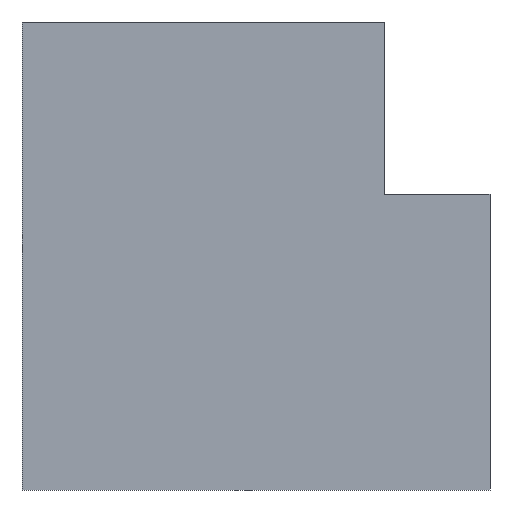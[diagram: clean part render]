
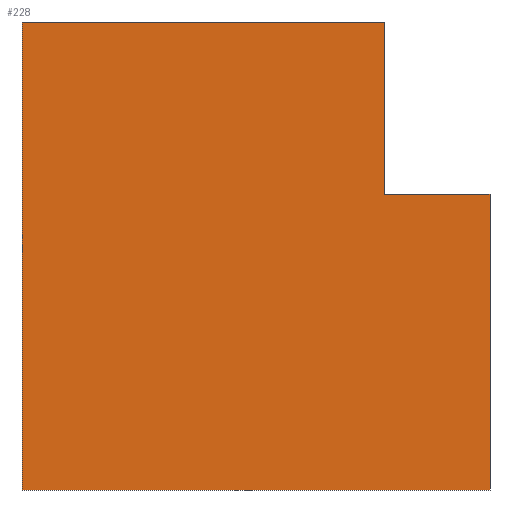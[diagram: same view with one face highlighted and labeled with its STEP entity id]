
A CAD part, front view. The second image highlights one B-rep face of the part: STEP entity #228.
In plain terms, the highlighted planar face has unit normal (0, -1, 0).
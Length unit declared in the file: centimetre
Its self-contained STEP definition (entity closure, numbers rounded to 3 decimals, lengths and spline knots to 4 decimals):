
#8 = VERTEX_POINT ( 'NONE', #394 ) ;
#13 = DIRECTION ( 'NONE',  ( 0., 0., -1. ) ) ;
#25 = DIRECTION ( 'NONE',  ( 0., 0., 1. ) ) ;
#29 = ORIENTED_EDGE ( 'NONE', *, *, #240, .T. ) ;
#33 = ORIENTED_EDGE ( 'NONE', *, *, #59, .T. ) ;
#34 = VECTOR ( 'NONE', #68, 100. ) ;
#38 = ORIENTED_EDGE ( 'NONE', *, *, #336, .F. ) ;
#41 = AXIS2_PLACEMENT_3D ( 'NONE', #335, #403, #25 ) ;
#48 = DIRECTION ( 'NONE',  ( 0., 0., -1. ) ) ;
#54 = EDGE_CURVE ( 'NONE', #196, #341, #153, .T. ) ;
#59 = EDGE_CURVE ( 'NONE', #352, #203, #277, .T. ) ;
#61 = CARTESIAN_POINT ( 'NONE',  ( 0., 0., 0. ) ) ;
#68 = DIRECTION ( 'NONE',  ( 1., 0., 0. ) ) ;
#81 = VERTEX_POINT ( 'NONE', #143 ) ;
#100 = CARTESIAN_POINT ( 'NONE',  ( 774.9735, 0., 631.8916 ) ) ;
#137 = LINE ( 'NONE', #269, #195 ) ;
#142 = EDGE_CURVE ( 'NONE', #8, #81, #286, .T. ) ;
#143 = CARTESIAN_POINT ( 'NONE',  ( 774.9735, 0., 1000. ) ) ;
#153 = LINE ( 'NONE', #429, #386 ) ;
#161 = LINE ( 'NONE', #182, #34 ) ;
#168 = ORIENTED_EDGE ( 'NONE', *, *, #54, .F. ) ;
#171 = EDGE_LOOP ( 'NONE', ( #29, #241, #38, #33, #310, #168 ) ) ;
#182 = CARTESIAN_POINT ( 'NONE',  ( 0., 0., 0. ) ) ;
#195 = VECTOR ( 'NONE', #290, 100. ) ;
#196 = VERTEX_POINT ( 'NONE', #398 ) ;
#203 = VERTEX_POINT ( 'NONE', #61 ) ;
#214 = EDGE_CURVE ( 'NONE', #203, #341, #161, .T. ) ;
#228 = ADVANCED_FACE ( 'NONE', ( #434 ), #267, .F. ) ;
#240 = EDGE_CURVE ( 'NONE', #196, #8, #137, .T. ) ;
#241 = ORIENTED_EDGE ( 'NONE', *, *, #142, .T. ) ;
#243 = CARTESIAN_POINT ( 'NONE',  ( 0., 0., 1000. ) ) ;
#267 = PLANE ( 'NONE',  #41 ) ;
#269 = CARTESIAN_POINT ( 'NONE',  ( 774.9735, 0., 631.8916 ) ) ;
#277 = LINE ( 'NONE', #420, #419 ) ;
#284 = LINE ( 'NONE', #243, #424 ) ;
#286 = LINE ( 'NONE', #100, #326 ) ;
#290 = DIRECTION ( 'NONE',  ( -1., 0., 0. ) ) ;
#310 = ORIENTED_EDGE ( 'NONE', *, *, #214, .T. ) ;
#312 = CARTESIAN_POINT ( 'NONE',  ( 1000., 0., 0. ) ) ;
#326 = VECTOR ( 'NONE', #333, 100. ) ;
#333 = DIRECTION ( 'NONE',  ( 0., 0., 1. ) ) ;
#335 = CARTESIAN_POINT ( 'NONE',  ( 0., 0., 1000. ) ) ;
#336 = EDGE_CURVE ( 'NONE', #352, #81, #284, .T. ) ;
#341 = VERTEX_POINT ( 'NONE', #312 ) ;
#352 = VERTEX_POINT ( 'NONE', #360 ) ;
#355 = DIRECTION ( 'NONE',  ( 1., 0., 0. ) ) ;
#360 = CARTESIAN_POINT ( 'NONE',  ( 0., 0., 1000. ) ) ;
#386 = VECTOR ( 'NONE', #13, 100. ) ;
#394 = CARTESIAN_POINT ( 'NONE',  ( 774.9735, 0., 631.8916 ) ) ;
#398 = CARTESIAN_POINT ( 'NONE',  ( 1000., 0., 631.8916 ) ) ;
#403 = DIRECTION ( 'NONE',  ( 0., 1., 0. ) ) ;
#419 = VECTOR ( 'NONE', #48, 100. ) ;
#420 = CARTESIAN_POINT ( 'NONE',  ( 0., 0., 1000. ) ) ;
#424 = VECTOR ( 'NONE', #355, 100. ) ;
#429 = CARTESIAN_POINT ( 'NONE',  ( 1000., 0., 1000. ) ) ;
#434 = FACE_OUTER_BOUND ( 'NONE', #171, .T. ) ;
